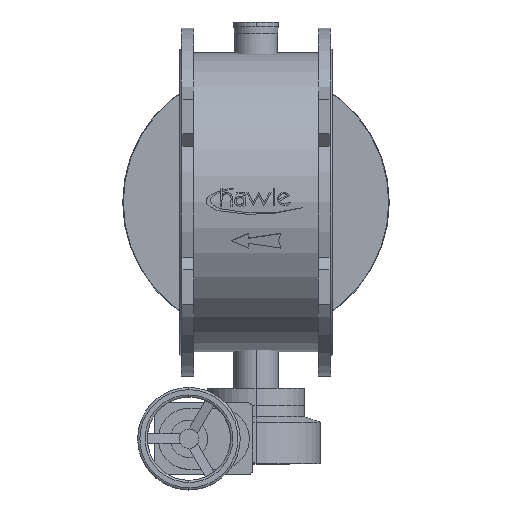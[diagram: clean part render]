
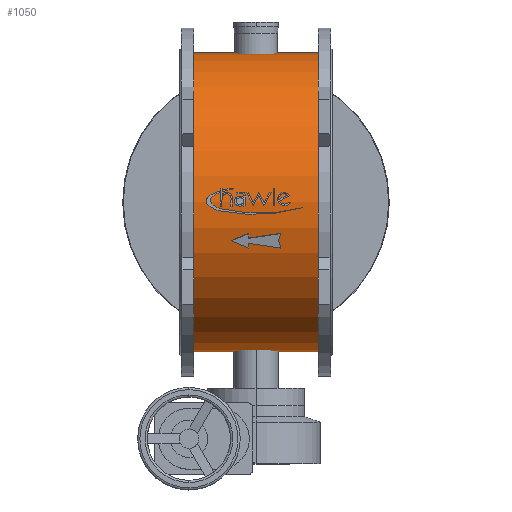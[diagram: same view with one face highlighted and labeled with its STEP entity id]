
A CAD part, top view. The second image highlights one B-rep face of the part: STEP entity #1050.
In plain terms, the highlighted cylindrical face has radius 540 mm (diameter 1080 mm), a partial arc.
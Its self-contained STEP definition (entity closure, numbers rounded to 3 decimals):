
#1050=ADVANCED_FACE('',(#2318),#2319,.T.);
#2318=FACE_OUTER_BOUND('',#4312,.T.);
#2319=CYLINDRICAL_SURFACE('',#4313,540.0);
#4312=EDGE_LOOP('',(#6025,#6026,#6027,#6028));
#4313=AXIS2_PLACEMENT_3D('',#6029,#6030,#6031);
#6025=ORIENTED_EDGE('',*,*,#10317,.T.);
#6026=ORIENTED_EDGE('',*,*,#10318,.T.);
#6027=ORIENTED_EDGE('',*,*,#10319,.T.);
#6028=ORIENTED_EDGE('',*,*,#10320,.T.);
#6029=CARTESIAN_POINT('',(-500.0,0.,0.0));
#6030=DIRECTION('',(1.0,0.,0.0));
#6031=DIRECTION('',(0.,-1.0,0.0));
#10317=EDGE_CURVE('',#12040,#12041,#12042,.T.);
#10318=EDGE_CURVE('',#12041,#12043,#12044,.T.);
#10319=EDGE_CURVE('',#12043,#12045,#12046,.T.);
#10320=EDGE_CURVE('',#12045,#12040,#12047,.T.);
#12040=VERTEX_POINT('',#14517);
#12041=VERTEX_POINT('',#14518);
#12042=LINE('',#14519,#14520);
#12043=VERTEX_POINT('',#14521);
#12044=CIRCLE('',#14522,540.0);
#12045=VERTEX_POINT('',#14523);
#12046=LINE('',#14524,#14525);
#12047=CIRCLE('',#14526,540.0);
#14517=CARTESIAN_POINT('',(-500.0,-540.0,0.0));
#14518=CARTESIAN_POINT('',(-50.,-540.0,0.0));
#14519=CARTESIAN_POINT('',(-500.0,-540.0,0.));
#14520=VECTOR('',#17545,1.0);
#14521=CARTESIAN_POINT('',(-50.0,540.0,0.));
#14522=AXIS2_PLACEMENT_3D('',#17546,#17547,#17548);
#14523=CARTESIAN_POINT('',(-500.0,540.0,0.));
#14524=CARTESIAN_POINT('',(-500.0,540.0,0.));
#14525=VECTOR('',#17549,1.0);
#14526=AXIS2_PLACEMENT_3D('',#17550,#17551,#17552);
#17545=DIRECTION('',(1.0,0.,0.0));
#17546=CARTESIAN_POINT('',(-50.0,0.,0.0));
#17547=DIRECTION('',(-1.0,0.,0.0));
#17548=DIRECTION('',(0.,-1.0,0.0));
#17549=DIRECTION('',(-1.0,0.,-0.0));
#17550=CARTESIAN_POINT('',(-500.0,0.,0.0));
#17551=DIRECTION('',(1.0,0.,0.0));
#17552=DIRECTION('',(0.,-1.0,0.0));
